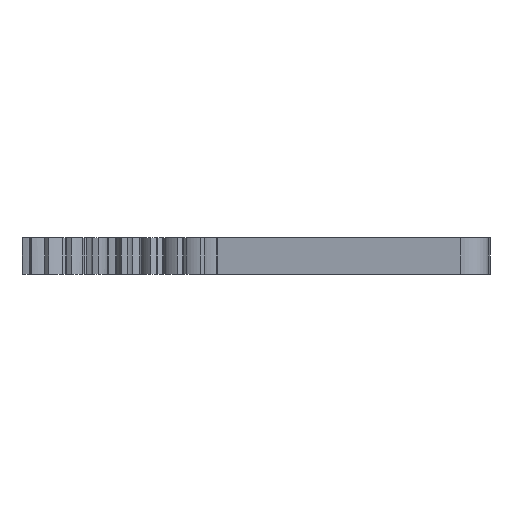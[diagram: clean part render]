
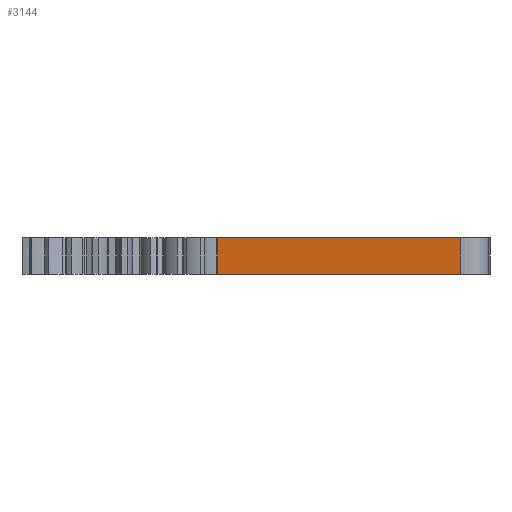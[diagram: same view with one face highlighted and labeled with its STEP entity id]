
A CAD part, left-side view. The second image highlights one B-rep face of the part: STEP entity #3144.
In plain terms, the highlighted planar face has unit normal (-0.991, 0.131, 0).
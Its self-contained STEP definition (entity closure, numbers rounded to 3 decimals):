
#143=PLANE('',#3331);
#189=FACE_OUTER_BOUND('',#359,.T.);
#359=EDGE_LOOP('',(#2054,#2055,#2056,#2057));
#533=LINE('',#4499,#787);
#534=LINE('',#4502,#788);
#535=LINE('',#4504,#789);
#536=LINE('',#4505,#790);
#787=VECTOR('',#3640,10.);
#788=VECTOR('',#3643,10.);
#789=VECTOR('',#3644,10.);
#790=VECTOR('',#3645,10.);
#1210=VERTEX_POINT('',#4492);
#1213=VERTEX_POINT('',#4497);
#1214=VERTEX_POINT('',#4501);
#1215=VERTEX_POINT('',#4503);
#1549=EDGE_CURVE('',#1213,#1210,#533,.T.);
#1550=EDGE_CURVE('',#1214,#1213,#534,.T.);
#1551=EDGE_CURVE('',#1215,#1214,#535,.T.);
#1552=EDGE_CURVE('',#1210,#1215,#536,.T.);
#2054=ORIENTED_EDGE('',*,*,#1549,.F.);
#2055=ORIENTED_EDGE('',*,*,#1550,.F.);
#2056=ORIENTED_EDGE('',*,*,#1551,.F.);
#2057=ORIENTED_EDGE('',*,*,#1552,.F.);
#3144=ADVANCED_FACE('',(#189),#143,.T.);
#3331=AXIS2_PLACEMENT_3D('',#4500,#3641,#3642);
#3640=DIRECTION('',(0.,0.,-1.));
#3641=DIRECTION('center_axis',(-0.991,0.131,0.));
#3642=DIRECTION('ref_axis',(0.131,0.991,0.));
#3643=DIRECTION('',(-0.131,-0.991,0.));
#3644=DIRECTION('',(0.,0.,1.));
#3645=DIRECTION('',(0.131,0.991,0.));
#4492=CARTESIAN_POINT('',(-6.133,-27.434,0.));
#4497=CARTESIAN_POINT('',(-6.133,-27.434,3.));
#4499=CARTESIAN_POINT('',(-6.133,-27.434,3.));
#4500=CARTESIAN_POINT('Origin',(-6.394,-29.417,3.));
#4501=CARTESIAN_POINT('',(-3.525,-7.624,3.));
#4502=CARTESIAN_POINT('',(-2.479,0.326,3.));
#4503=CARTESIAN_POINT('',(-3.525,-7.624,0.));
#4504=CARTESIAN_POINT('',(-3.525,-7.624,0.));
#4505=CARTESIAN_POINT('',(-2.479,0.326,0.));
